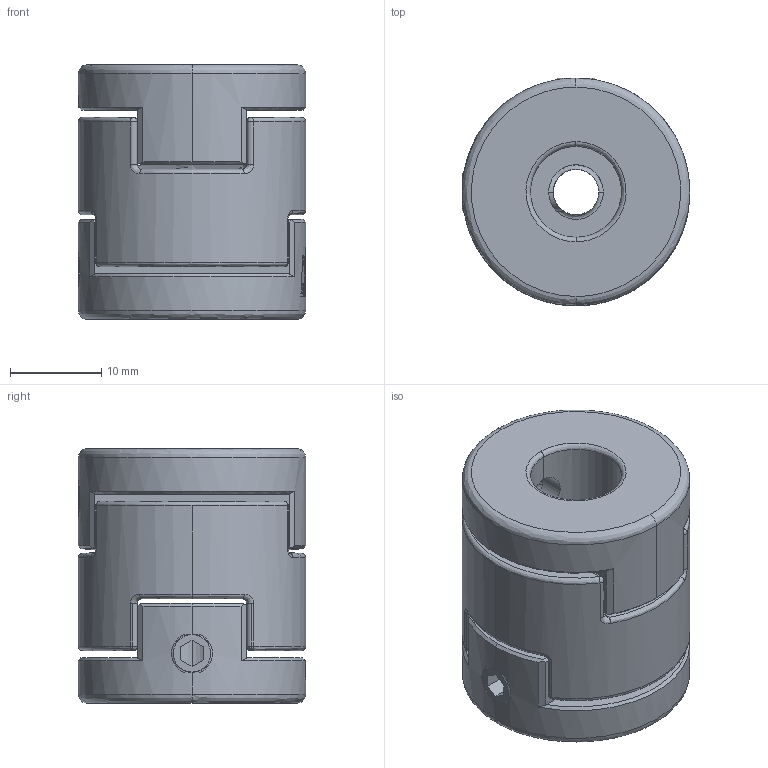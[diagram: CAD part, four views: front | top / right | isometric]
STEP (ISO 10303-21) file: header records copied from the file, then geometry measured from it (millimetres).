
FILE_DESCRIPTION (( 'STEP AP203' ), '1' );
FILE_NAME ('FAMN25.STEP', '2008-04-05T07:01:31', ( '陳志豪' ), ( '高明鐵企業股份有限公司' ), 'SwSTEP 2.0', 'SolidWorks 2007', '' );
FILE_SCHEMA (( 'CONFIG_CONTROL_DESIGN' ));
Length unit declared in the file: millimetre
Products named in the file (1): FAMN25
Bounding box: 25 x 25 x 28 mm (x, y, z)
Surface area: 5732.5 mm2 (no closed solid volume)
Topology: 0 solids, 5 shells, 214 faces, 635 edges, 409 vertices
Faces by surface type: plane 78, bspline 67, cylinder 46, cone 23
Entity records: 9724 total; most frequent: CARTESIAN_POINT 4676, ORIENTED_EDGE 1170, DIRECTION 805, EDGE_CURVE 616, VERTEX_POINT 408, AXIS2_PLACEMENT_3D 296, B_SPLINE_CURVE_WITH_KNOTS 238, EDGE_LOOP 233
